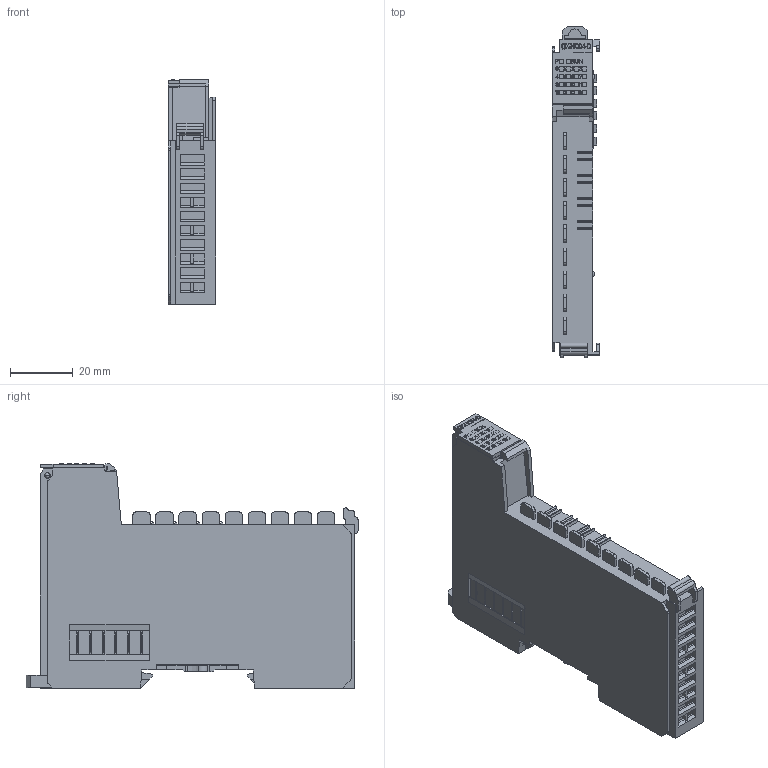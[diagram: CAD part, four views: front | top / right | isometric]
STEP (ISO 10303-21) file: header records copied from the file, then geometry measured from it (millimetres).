
FILE_DESCRIPTION((''),'2;1');
FILE_NAME('EXTEND-NEW_ASM_20200914_ASM','2021-04-08T09:54:51',('NING MEI'),(''),'CREO PARAMETRIC BY PTC INC, 2018050','CREO PARAMETRIC BY PTC INC, 2018050','');
FILE_SCHEMA(('CONFIG_CONTROL_DESIGN'));
Products named in the file (1): EXTEND-NEW_ASM_20200914_ASM
Bounding box: 15.2 x 105.5 x 71.3 mm (x, y, z)
Volume: 64323.6 mm3; surface area: 25758.7 mm2
Topology: 1 solids, 18 shells, 4994 faces, 14725 edges, 9801 vertices
Faces by surface type: plane 4756, cylinder 124, extrusion 100, bspline 8, sphere 4, cone 2
Entity records: 164235 total; most frequent: CARTESIAN_POINT 30889, ORIENTED_EDGE 29380, DIRECTION 24701, EDGE_CURVE 14721, VECTOR 14265, LINE 14165, VERTEX_POINT 9801, AXIS2_PLACEMENT_3D 5218
